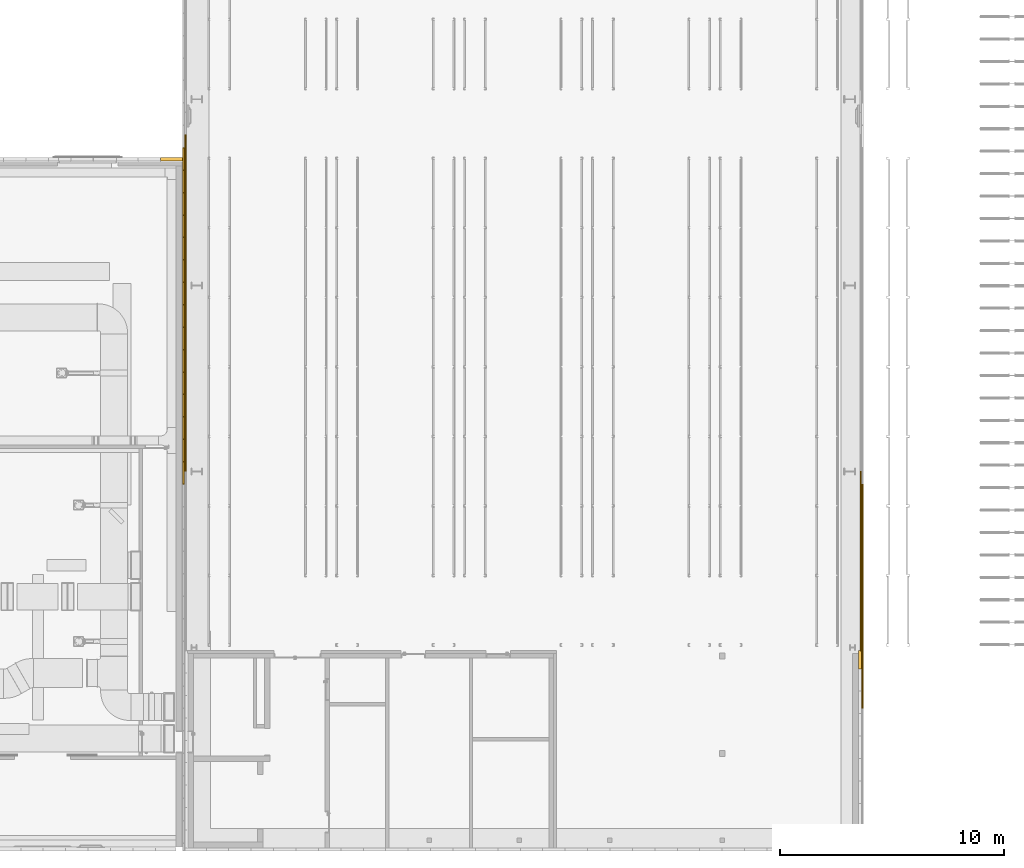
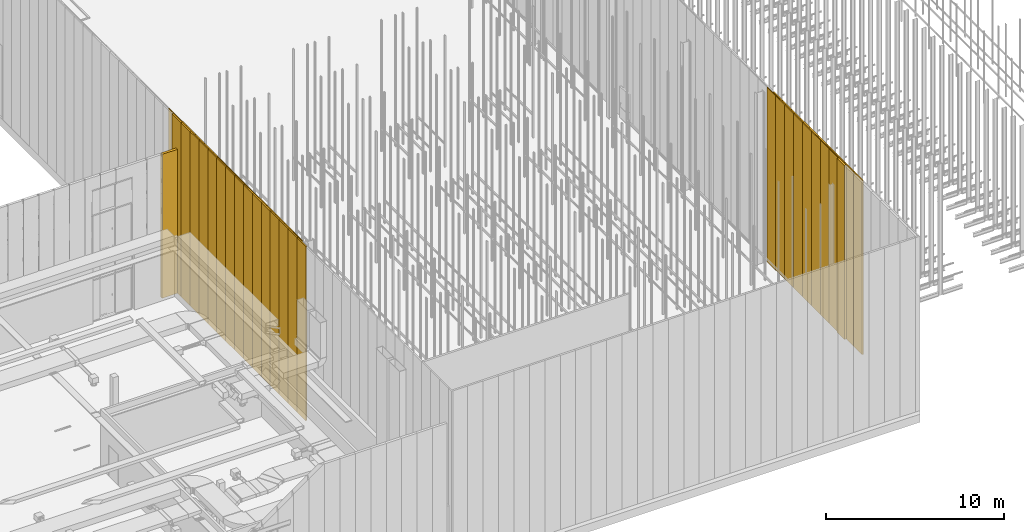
# One storey, part 240 of 302: 50 curtain walls, 6 elements without a shape of their own.
"""IFC2X3 building model written with IfcOpenShell, lengths in metres."""

from ifc_helpers import new_model, entity, si_unit, converted_unit, derived_unit, direction, frame, frame_2d, origin, place, context, subcontext, project, spatial, rectangle, extrude, material, layer, layer_set, layer_usage, type_object, element, aggregate, save


model = new_model("IFC2X3")

# Units and contexts
model_context = context("Model", 3, precision=1e-05, world=origin(), true_north=direction((6.12303176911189e-17, 1.0)))
body_context = subcontext(model_context, "Body", "Model", "MODEL_VIEW")
ifc_project = project(units=[si_unit("LENGTHUNIT", "METRE"), si_unit("AREAUNIT", "SQUARE_METRE"), si_unit("VOLUMEUNIT", "CUBIC_METRE"), converted_unit("PLANEANGLEUNIT", "DEGREE", entity("IfcRatioMeasure", 0.0174532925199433), si_unit("PLANEANGLEUNIT", "RADIAN"), dimensions=[0, 0, 0, 0, 0, 0, 0]), si_unit("MASSUNIT", "GRAM", prefix="KILO"), derived_unit("MASSDENSITYUNIT", [(si_unit("MASSUNIT", "GRAM", prefix="KILO"), 1), (si_unit("LENGTHUNIT", "METRE"), -3)]), derived_unit("MOMENTOFINERTIAUNIT", [(si_unit("LENGTHUNIT", "METRE"), 4)]), si_unit("TIMEUNIT", "SECOND"), si_unit("FREQUENCYUNIT", "HERTZ"), si_unit("THERMODYNAMICTEMPERATUREUNIT", "DEGREE_CELSIUS"), derived_unit("THERMALTRANSMITTANCEUNIT", [(si_unit("MASSUNIT", "GRAM", prefix="KILO"), 1), (si_unit("THERMODYNAMICTEMPERATUREUNIT", "KELVIN"), -1), (si_unit("TIMEUNIT", "SECOND"), -3)]), derived_unit("VOLUMETRICFLOWRATEUNIT", [(si_unit("LENGTHUNIT", "METRE"), 3), (si_unit("TIMEUNIT", "SECOND"), -1)]), si_unit("ELECTRICCURRENTUNIT", "AMPERE"), si_unit("ELECTRICVOLTAGEUNIT", "VOLT"), si_unit("POWERUNIT", "WATT"), si_unit("FORCEUNIT", "NEWTON", prefix="KILO"), si_unit("ILLUMINANCEUNIT", "LUX"), si_unit("LUMINOUSFLUXUNIT", "LUMEN"), si_unit("LUMINOUSINTENSITYUNIT", "CANDELA"), derived_unit("USERDEFINED", [(si_unit("MASSUNIT", "GRAM", prefix="KILO"), -1), (si_unit("LENGTHUNIT", "METRE"), -2), (si_unit("TIMEUNIT", "SECOND"), 3), (si_unit("LUMINOUSFLUXUNIT", "LUMEN"), 1)]), derived_unit("LINEARVELOCITYUNIT", [(si_unit("LENGTHUNIT", "METRE"), 1), (si_unit("TIMEUNIT", "SECOND"), -1)]), si_unit("PRESSUREUNIT", "PASCAL"), derived_unit("USERDEFINED", [(si_unit("LENGTHUNIT", "METRE"), -2), (si_unit("MASSUNIT", "GRAM", prefix="KILO"), 1), (si_unit("TIMEUNIT", "SECOND"), -2)]), derived_unit("LINEARFORCEUNIT", [(si_unit("MASSUNIT", "GRAM", prefix="KILO"), 1), (si_unit("LENGTHUNIT", "METRE"), 1), (si_unit("TIMEUNIT", "SECOND"), -2), (si_unit("LENGTHUNIT", "METRE"), -1)]), derived_unit("PLANARFORCEUNIT", [(si_unit("MASSUNIT", "GRAM", prefix="KILO"), 1), (si_unit("LENGTHUNIT", "METRE"), 1), (si_unit("TIMEUNIT", "SECOND"), -2), (si_unit("LENGTHUNIT", "METRE"), -2)])], contexts=[model_context])

# Site, building, storey
site_placement = place(None, origin())
site = spatial("IfcSite", under=ifc_project, at=site_placement, Name="Default", CompositionType="ELEMENT")
building_placement = place(site_placement, origin())
building = spatial("IfcBuilding", under=site, at=building_placement, CompositionType="ELEMENT")
storey_placement = place(building_placement, frame((0.0, 0.0, -1.3)))
storey = spatial("IfcBuildingStorey", under=building, at=storey_placement, Name="00_EG", CompositionType="ELEMENT", Elevation=-1.3)

# Curtain walls
curtain_wall_type_1 = type_object("IfcCurtainWallType", Name="Fassade:Curtain Wall 1", PredefinedType="NOTDEFINED")
curtain_wall_1_placement = place(storey_placement, frame((0.0, 0.0, 1.3)))
curtain_wall_1 = element("IfcCurtainWall", 1, at=curtain_wall_1_placement, inside=storey, type_object=curtain_wall_type_1, Name="Fassade:Curtain Wall 1", ObjectType="Fassade:Curtain Wall 1")
ifc_material_1 = material(Name="Prepainted_Steel-ArcelorMittal_Construction_HAIRULTRA-35-CORAL-4309-[RAL_3000]")
ifc_layer_1 = layer(ifc_material_1, 0.015)
ifc_material_2 = material(Name="ArcelorMittal-MineralWool")
ifc_layer_2 = layer(ifc_material_2, 0.13)
ifc_material_3 = material(Name="Prepainted_Steel-ArcelorMittal_Construction_INTÉRIEUR-12-WHITE-912")
ifc_layer_3 = layer(ifc_material_3, 0.015)
ifc_layer_set_1 = layer_set([ifc_layer_1, ifc_layer_2, ifc_layer_3], Name="Fassade:Sandwichpaneele 16cm")
ifc_layer_usage_1 = layer_usage(ifc_layer_set_1, "AXIS2", "POSITIVE", -0.08)
curtain_wall_type_2 = type_object("IfcCurtainWallType", Name="Basiswand:Sandwichpaneele d = 16cm aussen", PredefinedType="NOTDEFINED", material=ifc_layer_set_1)
curtain_wall_2_placement = place(storey_placement, frame((-207.610111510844, 45.658088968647, 1.27), z_axis=(0.0, 0.0, 1.0), x_axis=(-1.0, 0.0, 0.0)))
curtain_wall_2 = element("IfcCurtainWall", 2, at=curtain_wall_2_placement, type_object=curtain_wall_type_2, material=ifc_layer_usage_1, Name="Basiswand:Sandwichpaneele d = 16cm aussen", ObjectType="Basiswand:Sandwichpaneele d = 16cm aussen", context=body_context, shape_type="SweptSolid", body=[
    extrude(rectangle(XDim=0.997500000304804, YDim=0.159999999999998, at=frame_2d((0.498750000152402, 0.0), x_axis=(-1.0, 0.0))), origin(), (0.0, 0.0, 1.0), 9.8509),
])
aggregate(curtain_wall_1, [curtain_wall_2])

curtain_wall_type_3 = type_object("IfcCurtainWallType", PredefinedType="NOTDEFINED")
curtain_wall_3_placement = place(storey_placement, frame((0.0, 0.0, 1.3)))
curtain_wall_3 = element("IfcCurtainWall", 3, at=curtain_wall_3_placement, inside=storey, type_object=curtain_wall_type_3)
ifc_layer_4 = layer(ifc_material_1, 0.01)
ifc_layer_5 = layer(ifc_material_2, 0.06)
ifc_layer_6 = layer(ifc_material_1, 0.01)
ifc_layer_set_2 = layer_set([ifc_layer_4, ifc_layer_5, ifc_layer_6], Name="Fassade:Sandwichpaneele Gebäude B 80mm")
ifc_layer_usage_2 = layer_usage(ifc_layer_set_2, "AXIS2", "NEGATIVE", 0.04)
curtain_wall_type_4 = type_object("IfcCurtainWallType", Name="Basiswand:Sandwichpaneele d = 8cm aussen", PredefinedType="NOTDEFINED", material=ifc_layer_set_2)
curtain_wall_4_placement = place(storey_placement, frame((-207.570111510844, 46.1680889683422, 1.27), z_axis=(0.0, 0.0, 1.0), x_axis=(0.0, -1.0, 0.0)))
curtain_wall_4 = element("IfcCurtainWall", 4, at=curtain_wall_4_placement, type_object=curtain_wall_type_4, material=ifc_layer_usage_2, Name="Basiswand:Sandwichpaneele d = 8cm aussen", ObjectType="Basiswand:Sandwichpaneele d = 8cm aussen", context=body_context, shape_type="SweptSolid", body=[
    extrude(rectangle(XDim=0.999999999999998, YDim=0.0799999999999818, at=frame_2d((0.499999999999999, 0.0), x_axis=(-1.0, 0.0))), origin(), (0.0, 0.0, 1.0), 11.9314),
])
ifc_layer_usage_3 = layer_usage(ifc_layer_set_2, "AXIS2", "NEGATIVE", 0.04)
curtain_wall_5_placement = place(storey_placement, frame((-207.570111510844, 45.1680889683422, 1.27), z_axis=(0.0, 0.0, 1.0), x_axis=(0.0, -1.0, 0.0)))
curtain_wall_5 = element("IfcCurtainWall", 5, at=curtain_wall_5_placement, type_object=curtain_wall_type_4, material=ifc_layer_usage_3, Name="Basiswand:Sandwichpaneele d = 8cm aussen", ObjectType="Basiswand:Sandwichpaneele d = 8cm aussen", context=body_context, shape_type="SweptSolid", body=[
    extrude(rectangle(XDim=0.999999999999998, YDim=0.0799999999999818, at=frame_2d((0.499999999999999, 0.0), x_axis=(-1.0, 0.0))), origin(), (0.0, 0.0, 1.0), 11.9314),
])
ifc_layer_usage_4 = layer_usage(ifc_layer_set_2, "AXIS2", "NEGATIVE", 0.04)
curtain_wall_6_placement = place(storey_placement, frame((-207.570111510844, 44.1680889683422, 1.27), z_axis=(0.0, 0.0, 1.0), x_axis=(0.0, -1.0, 0.0)))
curtain_wall_6 = element("IfcCurtainWall", 6, at=curtain_wall_6_placement, type_object=curtain_wall_type_4, material=ifc_layer_usage_4, Name="Basiswand:Sandwichpaneele d = 8cm aussen", ObjectType="Basiswand:Sandwichpaneele d = 8cm aussen", context=body_context, shape_type="SweptSolid", body=[
    extrude(rectangle(XDim=0.999999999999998, YDim=0.0799999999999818, at=frame_2d((0.499999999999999, 0.0), x_axis=(-1.0, 0.0))), origin(), (0.0, 0.0, 1.0), 11.9314),
])
ifc_layer_usage_5 = layer_usage(ifc_layer_set_2, "AXIS2", "NEGATIVE", 0.04)
curtain_wall_7_placement = place(storey_placement, frame((-207.570111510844, 43.1680889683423, 1.27), z_axis=(0.0, 0.0, 1.0), x_axis=(0.0, -1.0, 0.0)))
curtain_wall_7 = element("IfcCurtainWall", 7, at=curtain_wall_7_placement, type_object=curtain_wall_type_4, material=ifc_layer_usage_5, Name="Basiswand:Sandwichpaneele d = 8cm aussen", ObjectType="Basiswand:Sandwichpaneele d = 8cm aussen", context=body_context, shape_type="SweptSolid", body=[
    extrude(rectangle(XDim=0.999999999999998, YDim=0.0799999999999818, at=frame_2d((0.499999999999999, 0.0), x_axis=(-1.0, 0.0))), origin(), (0.0, 0.0, 1.0), 11.9314),
])
ifc_layer_usage_6 = layer_usage(ifc_layer_set_2, "AXIS2", "NEGATIVE", 0.04)
curtain_wall_8_placement = place(storey_placement, frame((-207.570111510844, 42.1680889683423, 1.27), z_axis=(0.0, 0.0, 1.0), x_axis=(0.0, -1.0, 0.0)))
curtain_wall_8 = element("IfcCurtainWall", 8, at=curtain_wall_8_placement, type_object=curtain_wall_type_4, material=ifc_layer_usage_6, Name="Basiswand:Sandwichpaneele d = 8cm aussen", ObjectType="Basiswand:Sandwichpaneele d = 8cm aussen", context=body_context, shape_type="SweptSolid", body=[
    extrude(rectangle(XDim=1.00000000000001, YDim=0.0799999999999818, at=frame_2d((0.500000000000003, 0.0), x_axis=(-1.0, 0.0))), origin(), (0.0, 0.0, 1.0), 11.9314),
])
ifc_layer_usage_7 = layer_usage(ifc_layer_set_2, "AXIS2", "NEGATIVE", 0.04)
curtain_wall_9_placement = place(storey_placement, frame((-207.570111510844, 41.1680889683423, 1.27), z_axis=(0.0, 0.0, 1.0), x_axis=(0.0, -1.0, 0.0)))
curtain_wall_9 = element("IfcCurtainWall", 9, at=curtain_wall_9_placement, type_object=curtain_wall_type_4, material=ifc_layer_usage_7, Name="Basiswand:Sandwichpaneele d = 8cm aussen", ObjectType="Basiswand:Sandwichpaneele d = 8cm aussen", context=body_context, shape_type="SweptSolid", body=[
    extrude(rectangle(XDim=0.999999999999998, YDim=0.0799999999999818, at=frame_2d((0.499999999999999, 0.0), x_axis=(-1.0, 0.0))), origin(), (0.0, 0.0, 1.0), 11.9314),
])
ifc_layer_usage_8 = layer_usage(ifc_layer_set_2, "AXIS2", "NEGATIVE", 0.04)
curtain_wall_10_placement = place(storey_placement, frame((-207.570111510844, 40.1680889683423, 1.27), z_axis=(0.0, 0.0, 1.0), x_axis=(0.0, -1.0, 0.0)))
curtain_wall_10 = element("IfcCurtainWall", 10, at=curtain_wall_10_placement, type_object=curtain_wall_type_4, material=ifc_layer_usage_8, Name="Basiswand:Sandwichpaneele d = 8cm aussen", ObjectType="Basiswand:Sandwichpaneele d = 8cm aussen", context=body_context, shape_type="SweptSolid", body=[
    extrude(rectangle(XDim=0.999999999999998, YDim=0.0799999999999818, at=frame_2d((0.499999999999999, 0.0), x_axis=(-1.0, 0.0))), origin(), (0.0, 0.0, 1.0), 11.9314),
])
ifc_layer_usage_9 = layer_usage(ifc_layer_set_2, "AXIS2", "NEGATIVE", 0.04)
curtain_wall_11_placement = place(storey_placement, frame((-207.570111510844, 39.1680889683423, 1.27), z_axis=(0.0, 0.0, 1.0), x_axis=(0.0, -1.0, 0.0)))
curtain_wall_11 = element("IfcCurtainWall", 11, at=curtain_wall_11_placement, type_object=curtain_wall_type_4, material=ifc_layer_usage_9, Name="Basiswand:Sandwichpaneele d = 8cm aussen", ObjectType="Basiswand:Sandwichpaneele d = 8cm aussen", context=body_context, shape_type="SweptSolid", body=[
    extrude(rectangle(XDim=0.999999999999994, YDim=0.0799999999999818, at=frame_2d((0.499999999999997, 0.0), x_axis=(-1.0, 0.0))), origin(), (0.0, 0.0, 1.0), 11.9314),
])
ifc_layer_usage_10 = layer_usage(ifc_layer_set_2, "AXIS2", "NEGATIVE", 0.04)
curtain_wall_12_placement = place(storey_placement, frame((-207.570111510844, 38.1680889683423, 1.27), z_axis=(0.0, 0.0, 1.0), x_axis=(0.0, -1.0, 0.0)))
curtain_wall_12 = element("IfcCurtainWall", 12, at=curtain_wall_12_placement, type_object=curtain_wall_type_4, material=ifc_layer_usage_10, Name="Basiswand:Sandwichpaneele d = 8cm aussen", ObjectType="Basiswand:Sandwichpaneele d = 8cm aussen", context=body_context, shape_type="SweptSolid", body=[
    extrude(rectangle(XDim=1.0, YDim=0.0799999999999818, at=frame_2d((0.500000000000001, 0.0), x_axis=(-1.0, 0.0))), origin(), (0.0, 0.0, 1.0), 11.9314),
])
ifc_layer_usage_11 = layer_usage(ifc_layer_set_2, "AXIS2", "NEGATIVE", 0.04)
curtain_wall_13_placement = place(storey_placement, frame((-207.570111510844, 37.1680889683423, 1.27), z_axis=(0.0, 0.0, 1.0), x_axis=(0.0, -1.0, 0.0)))
curtain_wall_13 = element("IfcCurtainWall", 13, at=curtain_wall_13_placement, type_object=curtain_wall_type_4, material=ifc_layer_usage_11, Name="Basiswand:Sandwichpaneele d = 8cm aussen", ObjectType="Basiswand:Sandwichpaneele d = 8cm aussen", context=body_context, shape_type="SweptSolid", body=[
    extrude(rectangle(XDim=1.0, YDim=0.0799999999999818, at=frame_2d((0.500000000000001, 0.0), x_axis=(-1.0, 0.0))), origin(), (0.0, 0.0, 1.0), 11.9314),
])
ifc_layer_usage_12 = layer_usage(ifc_layer_set_2, "AXIS2", "NEGATIVE", 0.04)
curtain_wall_14_placement = place(storey_placement, frame((-207.570111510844, 36.1680889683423, 1.27), z_axis=(0.0, 0.0, 1.0), x_axis=(0.0, -1.0, 0.0)))
curtain_wall_14 = element("IfcCurtainWall", 14, at=curtain_wall_14_placement, type_object=curtain_wall_type_4, material=ifc_layer_usage_12, Name="Basiswand:Sandwichpaneele d = 8cm aussen", ObjectType="Basiswand:Sandwichpaneele d = 8cm aussen", context=body_context, shape_type="SweptSolid", body=[
    extrude(rectangle(XDim=0.999999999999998, YDim=0.0799999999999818, at=frame_2d((0.499999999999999, 0.0), x_axis=(-1.0, 0.0))), origin(), (0.0, 0.0, 1.0), 11.9314),
])
ifc_layer_usage_13 = layer_usage(ifc_layer_set_2, "AXIS2", "NEGATIVE", 0.04)
curtain_wall_15_placement = place(storey_placement, frame((-207.570111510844, 35.1680889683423, 1.27), z_axis=(0.0, 0.0, 1.0), x_axis=(0.0, -1.0, 0.0)))
curtain_wall_15 = element("IfcCurtainWall", 15, at=curtain_wall_15_placement, type_object=curtain_wall_type_4, material=ifc_layer_usage_13, Name="Basiswand:Sandwichpaneele d = 8cm aussen", ObjectType="Basiswand:Sandwichpaneele d = 8cm aussen", context=body_context, shape_type="SweptSolid", body=[
    extrude(rectangle(XDim=0.999999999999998, YDim=0.0799999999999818, at=frame_2d((0.499999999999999, 0.0), x_axis=(-1.0, 0.0))), origin(), (0.0, 0.0, 1.0), 11.9314),
])
ifc_layer_usage_14 = layer_usage(ifc_layer_set_2, "AXIS2", "NEGATIVE", 0.04)
curtain_wall_16_placement = place(storey_placement, frame((-207.570111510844, 34.1680889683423, 1.27), z_axis=(0.0, 0.0, 1.0), x_axis=(0.0, -1.0, 0.0)))
curtain_wall_16 = element("IfcCurtainWall", 16, at=curtain_wall_16_placement, type_object=curtain_wall_type_4, material=ifc_layer_usage_14, Name="Basiswand:Sandwichpaneele d = 8cm aussen", ObjectType="Basiswand:Sandwichpaneele d = 8cm aussen", context=body_context, shape_type="SweptSolid", body=[
    extrude(rectangle(XDim=0.999999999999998, YDim=0.0799999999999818, at=frame_2d((0.499999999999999, 0.0), x_axis=(-1.0, 0.0))), origin(), (0.0, 0.0, 1.0), 11.9314),
])
ifc_layer_usage_15 = layer_usage(ifc_layer_set_2, "AXIS2", "NEGATIVE", 0.04)
curtain_wall_17_placement = place(storey_placement, frame((-207.570111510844, 33.1680889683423, 1.27), z_axis=(0.0, 0.0, 1.0), x_axis=(0.0, -1.0, 0.0)))
curtain_wall_17 = element("IfcCurtainWall", 17, at=curtain_wall_17_placement, type_object=curtain_wall_type_4, material=ifc_layer_usage_15, Name="Basiswand:Sandwichpaneele d = 8cm aussen", ObjectType="Basiswand:Sandwichpaneele d = 8cm aussen", context=body_context, shape_type="SweptSolid", body=[
    extrude(rectangle(XDim=0.999999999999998, YDim=0.0799999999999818, at=frame_2d((0.499999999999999, 0.0), x_axis=(-1.0, 0.0))), origin(), (0.0, 0.0, 1.0), 11.9314),
])
ifc_layer_usage_16 = layer_usage(ifc_layer_set_2, "AXIS2", "NEGATIVE", 0.04)
curtain_wall_18_placement = place(storey_placement, frame((-207.570111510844, 32.1680889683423, 1.27), z_axis=(0.0, 0.0, 1.0), x_axis=(0.0, -1.0, 0.0)))
curtain_wall_18 = element("IfcCurtainWall", 18, at=curtain_wall_18_placement, type_object=curtain_wall_type_4, material=ifc_layer_usage_16, Name="Basiswand:Sandwichpaneele d = 8cm aussen", ObjectType="Basiswand:Sandwichpaneele d = 8cm aussen", context=body_context, shape_type="SweptSolid", body=[
    extrude(rectangle(XDim=1.00000000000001, YDim=0.0799999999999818, at=frame_2d((0.500000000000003, 0.0), x_axis=(-1.0, 0.0))), origin(), (0.0, 0.0, 1.0), 11.9314),
])
aggregate(curtain_wall_3, [curtain_wall_4, curtain_wall_5, curtain_wall_6, curtain_wall_7, curtain_wall_8, curtain_wall_9, curtain_wall_10, curtain_wall_11, curtain_wall_12, curtain_wall_13, curtain_wall_14, curtain_wall_15, curtain_wall_16, curtain_wall_17, curtain_wall_18])

curtain_wall_19_placement = place(storey_placement, frame((0.0, 0.0, 1.3)))
curtain_wall_19 = element("IfcCurtainWall", 19, at=curtain_wall_19_placement, inside=storey, type_object=curtain_wall_type_3)
ifc_layer_usage_17 = layer_usage(ifc_layer_set_2, "AXIS2", "POSITIVE", -0.04)
curtain_wall_20_placement = place(storey_placement, frame((-177.310111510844, 31.1680889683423, 1.27), z_axis=(0.0, 0.0, 1.0), x_axis=(0.0, -1.0, 0.0)))
curtain_wall_20 = element("IfcCurtainWall", 20, at=curtain_wall_20_placement, type_object=curtain_wall_type_4, material=ifc_layer_usage_17, Name="Basiswand:Sandwichpaneele d = 8cm aussen", ObjectType="Basiswand:Sandwichpaneele d = 8cm aussen", context=body_context, shape_type="SweptSolid", body=[
    extrude(rectangle(XDim=0.999999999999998, YDim=0.0799999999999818, at=frame_2d((0.499999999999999, 0.0), x_axis=(-1.0, 0.0))), origin(), (0.0, 0.0, 1.0), 11.9314),
])
ifc_layer_usage_18 = layer_usage(ifc_layer_set_2, "AXIS2", "POSITIVE", -0.04)
curtain_wall_21_placement = place(storey_placement, frame((-177.310111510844, 30.1680889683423, 1.27), z_axis=(0.0, 0.0, 1.0), x_axis=(0.0, -1.0, 0.0)))
curtain_wall_21 = element("IfcCurtainWall", 21, at=curtain_wall_21_placement, type_object=curtain_wall_type_4, material=ifc_layer_usage_18, Name="Basiswand:Sandwichpaneele d = 8cm aussen", ObjectType="Basiswand:Sandwichpaneele d = 8cm aussen", context=body_context, shape_type="SweptSolid", body=[
    extrude(rectangle(XDim=0.999999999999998, YDim=0.0799999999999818, at=frame_2d((0.499999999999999, 0.0), x_axis=(-1.0, 0.0))), origin(), (0.0, 0.0, 1.0), 11.9314),
])
ifc_layer_usage_19 = layer_usage(ifc_layer_set_2, "AXIS2", "POSITIVE", -0.04)
curtain_wall_22_placement = place(storey_placement, frame((-177.310111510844, 29.1680889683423, 1.27), z_axis=(0.0, 0.0, 1.0), x_axis=(0.0, -1.0, 0.0)))
curtain_wall_22 = element("IfcCurtainWall", 22, at=curtain_wall_22_placement, type_object=curtain_wall_type_4, material=ifc_layer_usage_19, Name="Basiswand:Sandwichpaneele d = 8cm aussen", ObjectType="Basiswand:Sandwichpaneele d = 8cm aussen", context=body_context, shape_type="SweptSolid", body=[
    extrude(rectangle(XDim=0.999999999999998, YDim=0.0799999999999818, at=frame_2d((0.499999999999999, 0.0), x_axis=(-1.0, 0.0))), origin(), (0.0, 0.0, 1.0), 11.9314),
])
ifc_layer_usage_20 = layer_usage(ifc_layer_set_2, "AXIS2", "POSITIVE", -0.04)
curtain_wall_23_placement = place(storey_placement, frame((-177.310111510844, 28.1680889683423, 1.27), z_axis=(0.0, 0.0, 1.0), x_axis=(0.0, -1.0, 0.0)))
curtain_wall_23 = element("IfcCurtainWall", 23, at=curtain_wall_23_placement, type_object=curtain_wall_type_4, material=ifc_layer_usage_20, Name="Basiswand:Sandwichpaneele d = 8cm aussen", ObjectType="Basiswand:Sandwichpaneele d = 8cm aussen", context=body_context, shape_type="SweptSolid", body=[
    extrude(rectangle(XDim=0.999999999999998, YDim=0.0799999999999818, at=frame_2d((0.499999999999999, 0.0), x_axis=(-1.0, 0.0))), origin(), (0.0, 0.0, 1.0), 11.9314),
])
ifc_layer_usage_21 = layer_usage(ifc_layer_set_2, "AXIS2", "POSITIVE", -0.04)
curtain_wall_24_placement = place(storey_placement, frame((-177.310111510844, 27.1680889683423, 1.27), z_axis=(0.0, 0.0, 1.0), x_axis=(0.0, -1.0, 0.0)))
curtain_wall_24 = element("IfcCurtainWall", 24, at=curtain_wall_24_placement, type_object=curtain_wall_type_4, material=ifc_layer_usage_21, Name="Basiswand:Sandwichpaneele d = 8cm aussen", ObjectType="Basiswand:Sandwichpaneele d = 8cm aussen", context=body_context, shape_type="SweptSolid", body=[
    extrude(rectangle(XDim=0.999999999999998, YDim=0.0799999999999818, at=frame_2d((0.499999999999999, 0.0), x_axis=(-1.0, 0.0))), origin(), (0.0, 0.0, 1.0), 11.9314),
])
ifc_layer_usage_22 = layer_usage(ifc_layer_set_2, "AXIS2", "POSITIVE", -0.04)
curtain_wall_25_placement = place(storey_placement, frame((-177.310111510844, 26.1680889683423, 1.27), z_axis=(0.0, 0.0, 1.0), x_axis=(0.0, -1.0, 0.0)))
curtain_wall_25 = element("IfcCurtainWall", 25, at=curtain_wall_25_placement, type_object=curtain_wall_type_4, material=ifc_layer_usage_22, Name="Basiswand:Sandwichpaneele d = 8cm aussen", ObjectType="Basiswand:Sandwichpaneele d = 8cm aussen", context=body_context, shape_type="SweptSolid", body=[
    extrude(rectangle(XDim=1.00000000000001, YDim=0.0799999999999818, at=frame_2d((0.500000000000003, 0.0), x_axis=(-1.0, 0.0))), origin(), (0.0, 0.0, 1.0), 11.9314),
])
ifc_layer_usage_23 = layer_usage(ifc_layer_set_2, "AXIS2", "POSITIVE", -0.04)
curtain_wall_26_placement = place(storey_placement, frame((-177.310111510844, 25.1680889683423, 1.27), z_axis=(0.0, 0.0, 1.0), x_axis=(0.0, -1.0, 0.0)))
curtain_wall_26 = element("IfcCurtainWall", 26, at=curtain_wall_26_placement, type_object=curtain_wall_type_4, material=ifc_layer_usage_23, Name="Basiswand:Sandwichpaneele d = 8cm aussen", ObjectType="Basiswand:Sandwichpaneele d = 8cm aussen", context=body_context, shape_type="SweptSolid", body=[
    extrude(rectangle(XDim=0.999999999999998, YDim=0.0799999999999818, at=frame_2d((0.499999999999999, 0.0), x_axis=(-1.0, 0.0))), origin(), (0.0, 0.0, 1.0), 11.9314),
])
ifc_layer_usage_24 = layer_usage(ifc_layer_set_2, "AXIS2", "POSITIVE", -0.04)
curtain_wall_27_placement = place(storey_placement, frame((-177.310111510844, 24.1680889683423, 1.27), z_axis=(0.0, 0.0, 1.0), x_axis=(0.0, -1.0, 0.0)))
curtain_wall_27 = element("IfcCurtainWall", 27, at=curtain_wall_27_placement, type_object=curtain_wall_type_4, material=ifc_layer_usage_24, Name="Basiswand:Sandwichpaneele d = 8cm aussen", ObjectType="Basiswand:Sandwichpaneele d = 8cm aussen", context=body_context, shape_type="SweptSolid", body=[
    extrude(rectangle(XDim=1.00000000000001, YDim=0.0799999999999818, at=frame_2d((0.500000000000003, 0.0), x_axis=(-1.0, 0.0))), origin(), (0.0, 0.0, 1.0), 11.9314),
])
ifc_layer_usage_25 = layer_usage(ifc_layer_set_2, "AXIS2", "POSITIVE", -0.04)
curtain_wall_28_placement = place(storey_placement, frame((-177.310111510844, 23.1680889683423, 1.27), z_axis=(0.0, 0.0, 1.0), x_axis=(0.0, -1.0, 0.0)))
curtain_wall_28 = element("IfcCurtainWall", 28, at=curtain_wall_28_placement, type_object=curtain_wall_type_4, material=ifc_layer_usage_25, Name="Basiswand:Sandwichpaneele d = 8cm aussen", ObjectType="Basiswand:Sandwichpaneele d = 8cm aussen", context=body_context, shape_type="SweptSolid", body=[
    extrude(rectangle(XDim=0.999999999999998, YDim=0.0799999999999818, at=frame_2d((0.499999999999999, 0.0), x_axis=(-1.0, 0.0))), origin(), (0.0, 0.0, 1.0), 11.9314),
])
ifc_layer_usage_26 = layer_usage(ifc_layer_set_2, "AXIS2", "POSITIVE", -0.04)
curtain_wall_29_placement = place(storey_placement, frame((-177.310111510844, 22.1680889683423, 1.27), z_axis=(0.0, 0.0, 1.0), x_axis=(0.0, -1.0, 0.0)))
curtain_wall_29 = element("IfcCurtainWall", 29, at=curtain_wall_29_placement, type_object=curtain_wall_type_4, material=ifc_layer_usage_26, Name="Basiswand:Sandwichpaneele d = 8cm aussen", ObjectType="Basiswand:Sandwichpaneele d = 8cm aussen", context=body_context, shape_type="SweptSolid", body=[
    extrude(rectangle(XDim=0.999999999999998, YDim=0.0799999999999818, at=frame_2d((0.499999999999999, 0.0), x_axis=(-1.0, 0.0))), origin(), (0.0, 0.0, 1.0), 11.9314),
])
aggregate(curtain_wall_19, [curtain_wall_20, curtain_wall_21, curtain_wall_22, curtain_wall_23, curtain_wall_24, curtain_wall_25, curtain_wall_26, curtain_wall_27, curtain_wall_28, curtain_wall_29])

curtain_wall_type_5 = type_object("IfcCurtainWallType", PredefinedType="NOTDEFINED")
curtain_wall_30_placement = place(storey_placement, frame((0.0, 0.0, 1.3)))
curtain_wall_30 = element("IfcCurtainWall", 30, at=curtain_wall_30_placement, inside=storey, type_object=curtain_wall_type_5)
ifc_layer_7 = layer(ifc_material_1, 0.015)
ifc_layer_8 = layer(ifc_material_2, 0.09)
ifc_layer_9 = layer(ifc_material_1, 0.015)
ifc_layer_set_3 = layer_set([ifc_layer_7, ifc_layer_8, ifc_layer_9], Name="Fassade:Sandwichpaneele Gebäude B 120mm")
ifc_layer_usage_27 = layer_usage(ifc_layer_set_3, "AXIS2", "NEGATIVE", 0.06)
curtain_wall_type_6 = type_object("IfcCurtainWallType", Name="Basiswand:Sandwichpaneele d = 12cm aussen", PredefinedType="NOTDEFINED", material=ifc_layer_set_3)
curtain_wall_31_placement = place(storey_placement, frame((-177.420111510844, 22.9380889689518, 1.27), z_axis=(0.0, 0.0, 1.0), x_axis=(0.0, 1.0, 0.0)))
curtain_wall_31 = element("IfcCurtainWall", 31, at=curtain_wall_31_placement, type_object=curtain_wall_type_6, material=ifc_layer_usage_27, Name="Basiswand:Sandwichpaneele d = 12cm aussen", ObjectType="Basiswand:Sandwichpaneele d = 12cm aussen", context=body_context, shape_type="SweptSolid", body=[
    extrude(rectangle(XDim=0.809999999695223, YDim=0.119999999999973, at=frame_2d((0.404999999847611, 0.0), x_axis=(-1.0, 0.0))), origin(), (0.0, 0.0, 1.0), 11.9314),
])
aggregate(curtain_wall_30, [curtain_wall_31])

curtain_wall_type_7 = type_object("IfcCurtainWallType", PredefinedType="NOTDEFINED")
curtain_wall_32_placement = place(storey_placement, frame((0.0, 0.0, 1.3)))
curtain_wall_32 = element("IfcCurtainWall", 32, at=curtain_wall_32_placement, inside=storey, type_object=curtain_wall_type_7)
ifc_layer_10 = layer(ifc_material_1, 0.01)
ifc_layer_11 = layer(ifc_material_2, 0.04)
ifc_layer_12 = layer(ifc_material_1, 0.01)
ifc_layer_set_4 = layer_set([ifc_layer_10, ifc_layer_11, ifc_layer_12], Name="Fassade:Sandwichpaneele Gebäude B 60mm")
ifc_layer_usage_28 = layer_usage(ifc_layer_set_4, "AXIS2", "NEGATIVE", 0.03)
curtain_wall_type_8 = type_object("IfcCurtainWallType", Name="Basiswand:Sandwichpaneele d = 6cm aussen", PredefinedType="NOTDEFINED", material=ifc_layer_set_4)
curtain_wall_33_placement = place(storey_placement, frame((-207.490111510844, 31.7480889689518, 1.27), z_axis=(0.0, 0.0, 1.0), x_axis=(0.0, 1.0, 0.0)))
curtain_wall_33 = element("IfcCurtainWall", 33, at=curtain_wall_33_placement, type_object=curtain_wall_type_8, material=ifc_layer_usage_28, Name="Basiswand:Sandwichpaneele d = 6cm aussen", ObjectType="Basiswand:Sandwichpaneele d = 6cm aussen", context=body_context, shape_type="SweptSolid", body=[
    extrude(rectangle(XDim=0.999999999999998, YDim=0.0599999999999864, at=frame_2d((0.499999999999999, 0.0), x_axis=(-1.0, 0.0))), origin(), (0.0, 0.0, 1.0), 11.9314),
])
ifc_layer_usage_29 = layer_usage(ifc_layer_set_4, "AXIS2", "NEGATIVE", 0.03)
curtain_wall_34_placement = place(storey_placement, frame((-207.490111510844, 32.7480889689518, 1.27), z_axis=(0.0, 0.0, 1.0), x_axis=(0.0, 1.0, 0.0)))
curtain_wall_34 = element("IfcCurtainWall", 34, at=curtain_wall_34_placement, type_object=curtain_wall_type_8, material=ifc_layer_usage_29, Name="Basiswand:Sandwichpaneele d = 6cm aussen", ObjectType="Basiswand:Sandwichpaneele d = 6cm aussen", context=body_context, shape_type="SweptSolid", body=[
    extrude(rectangle(XDim=1.0, YDim=0.0599999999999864, at=frame_2d((0.500000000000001, 0.0), x_axis=(-1.0, 0.0))), origin(), (0.0, 0.0, 1.0), 11.9314),
])
ifc_layer_usage_30 = layer_usage(ifc_layer_set_4, "AXIS2", "NEGATIVE", 0.03)
curtain_wall_35_placement = place(storey_placement, frame((-207.490111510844, 33.7480889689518, 1.27), z_axis=(0.0, 0.0, 1.0), x_axis=(0.0, 1.0, 0.0)))
curtain_wall_35 = element("IfcCurtainWall", 35, at=curtain_wall_35_placement, type_object=curtain_wall_type_8, material=ifc_layer_usage_30, Name="Basiswand:Sandwichpaneele d = 6cm aussen", ObjectType="Basiswand:Sandwichpaneele d = 6cm aussen", context=body_context, shape_type="SweptSolid", body=[
    extrude(rectangle(XDim=0.999999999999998, YDim=0.0599999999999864, at=frame_2d((0.499999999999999, 0.0), x_axis=(-1.0, 0.0))), origin(), (0.0, 0.0, 1.0), 11.9314),
])
ifc_layer_usage_31 = layer_usage(ifc_layer_set_4, "AXIS2", "NEGATIVE", 0.03)
curtain_wall_36_placement = place(storey_placement, frame((-207.490111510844, 34.7480889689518, 1.27), z_axis=(0.0, 0.0, 1.0), x_axis=(0.0, 1.0, 0.0)))
curtain_wall_36 = element("IfcCurtainWall", 36, at=curtain_wall_36_placement, type_object=curtain_wall_type_8, material=ifc_layer_usage_31, Name="Basiswand:Sandwichpaneele d = 6cm aussen", ObjectType="Basiswand:Sandwichpaneele d = 6cm aussen", context=body_context, shape_type="SweptSolid", body=[
    extrude(rectangle(XDim=0.999999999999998, YDim=0.0599999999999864, at=frame_2d((0.499999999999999, 0.0), x_axis=(-1.0, 0.0))), origin(), (0.0, 0.0, 1.0), 11.9314),
])
ifc_layer_usage_32 = layer_usage(ifc_layer_set_4, "AXIS2", "NEGATIVE", 0.03)
curtain_wall_37_placement = place(storey_placement, frame((-207.490111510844, 35.7480889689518, 1.27), z_axis=(0.0, 0.0, 1.0), x_axis=(0.0, 1.0, 0.0)))
curtain_wall_37 = element("IfcCurtainWall", 37, at=curtain_wall_37_placement, type_object=curtain_wall_type_8, material=ifc_layer_usage_32, Name="Basiswand:Sandwichpaneele d = 6cm aussen", ObjectType="Basiswand:Sandwichpaneele d = 6cm aussen", context=body_context, shape_type="SweptSolid", body=[
    extrude(rectangle(XDim=1.0, YDim=0.0599999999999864, at=frame_2d((0.500000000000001, 0.0), x_axis=(-1.0, 0.0))), origin(), (0.0, 0.0, 1.0), 11.9314),
])
ifc_layer_usage_33 = layer_usage(ifc_layer_set_4, "AXIS2", "NEGATIVE", 0.03)
curtain_wall_38_placement = place(storey_placement, frame((-207.490111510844, 36.7480889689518, 1.27), z_axis=(0.0, 0.0, 1.0), x_axis=(0.0, 1.0, 0.0)))
curtain_wall_38 = element("IfcCurtainWall", 38, at=curtain_wall_38_placement, type_object=curtain_wall_type_8, material=ifc_layer_usage_33, Name="Basiswand:Sandwichpaneele d = 6cm aussen", ObjectType="Basiswand:Sandwichpaneele d = 6cm aussen", context=body_context, shape_type="SweptSolid", body=[
    extrude(rectangle(XDim=1.0, YDim=0.0599999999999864, at=frame_2d((0.500000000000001, 0.0), x_axis=(-1.0, 0.0))), origin(), (0.0, 0.0, 1.0), 11.9314),
])
ifc_layer_usage_34 = layer_usage(ifc_layer_set_4, "AXIS2", "NEGATIVE", 0.03)
curtain_wall_39_placement = place(storey_placement, frame((-207.490111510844, 37.7480889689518, 1.27), z_axis=(0.0, 0.0, 1.0), x_axis=(0.0, 1.0, 0.0)))
curtain_wall_39 = element("IfcCurtainWall", 39, at=curtain_wall_39_placement, type_object=curtain_wall_type_8, material=ifc_layer_usage_34, Name="Basiswand:Sandwichpaneele d = 6cm aussen", ObjectType="Basiswand:Sandwichpaneele d = 6cm aussen", context=body_context, shape_type="SweptSolid", body=[
    extrude(rectangle(XDim=0.999999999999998, YDim=0.0599999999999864, at=frame_2d((0.499999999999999, 0.0), x_axis=(-1.0, 0.0))), origin(), (0.0, 0.0, 1.0), 11.9314),
])
ifc_layer_usage_35 = layer_usage(ifc_layer_set_4, "AXIS2", "NEGATIVE", 0.03)
curtain_wall_40_placement = place(storey_placement, frame((-207.490111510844, 38.7480889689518, 1.27), z_axis=(0.0, 0.0, 1.0), x_axis=(0.0, 1.0, 0.0)))
curtain_wall_40 = element("IfcCurtainWall", 40, at=curtain_wall_40_placement, type_object=curtain_wall_type_8, material=ifc_layer_usage_35, Name="Basiswand:Sandwichpaneele d = 6cm aussen", ObjectType="Basiswand:Sandwichpaneele d = 6cm aussen", context=body_context, shape_type="SweptSolid", body=[
    extrude(rectangle(XDim=0.999999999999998, YDim=0.0599999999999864, at=frame_2d((0.499999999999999, 0.0), x_axis=(-1.0, 0.0))), origin(), (0.0, 0.0, 1.0), 11.9314),
])
ifc_layer_usage_36 = layer_usage(ifc_layer_set_4, "AXIS2", "NEGATIVE", 0.03)
curtain_wall_41_placement = place(storey_placement, frame((-207.490111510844, 39.7480889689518, 1.27), z_axis=(0.0, 0.0, 1.0), x_axis=(0.0, 1.0, 0.0)))
curtain_wall_41 = element("IfcCurtainWall", 41, at=curtain_wall_41_placement, type_object=curtain_wall_type_8, material=ifc_layer_usage_36, Name="Basiswand:Sandwichpaneele d = 6cm aussen", ObjectType="Basiswand:Sandwichpaneele d = 6cm aussen", context=body_context, shape_type="SweptSolid", body=[
    extrude(rectangle(XDim=1.00000000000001, YDim=0.0599999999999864, at=frame_2d((0.500000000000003, 0.0), x_axis=(-1.0, 0.0))), origin(), (0.0, 0.0, 1.0), 11.9314),
])
ifc_layer_usage_37 = layer_usage(ifc_layer_set_4, "AXIS2", "NEGATIVE", 0.03)
curtain_wall_42_placement = place(storey_placement, frame((-207.490111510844, 40.7480889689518, 1.27), z_axis=(0.0, 0.0, 1.0), x_axis=(0.0, 1.0, 0.0)))
curtain_wall_42 = element("IfcCurtainWall", 42, at=curtain_wall_42_placement, type_object=curtain_wall_type_8, material=ifc_layer_usage_37, Name="Basiswand:Sandwichpaneele d = 6cm aussen", ObjectType="Basiswand:Sandwichpaneele d = 6cm aussen", context=body_context, shape_type="SweptSolid", body=[
    extrude(rectangle(XDim=0.999999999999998, YDim=0.0599999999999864, at=frame_2d((0.499999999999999, 0.0), x_axis=(-1.0, 0.0))), origin(), (0.0, 0.0, 1.0), 11.9314),
])
ifc_layer_usage_38 = layer_usage(ifc_layer_set_4, "AXIS2", "NEGATIVE", 0.03)
curtain_wall_43_placement = place(storey_placement, frame((-207.490111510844, 41.7480889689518, 1.27), z_axis=(0.0, 0.0, 1.0), x_axis=(0.0, 1.0, 0.0)))
curtain_wall_43 = element("IfcCurtainWall", 43, at=curtain_wall_43_placement, type_object=curtain_wall_type_8, material=ifc_layer_usage_38, Name="Basiswand:Sandwichpaneele d = 6cm aussen", ObjectType="Basiswand:Sandwichpaneele d = 6cm aussen", context=body_context, shape_type="SweptSolid", body=[
    extrude(rectangle(XDim=0.999999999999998, YDim=0.0599999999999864, at=frame_2d((0.499999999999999, 0.0), x_axis=(-1.0, 0.0))), origin(), (0.0, 0.0, 1.0), 11.9314),
])
ifc_layer_usage_39 = layer_usage(ifc_layer_set_4, "AXIS2", "NEGATIVE", 0.03)
curtain_wall_44_placement = place(storey_placement, frame((-207.490111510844, 42.7480889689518, 1.27), z_axis=(0.0, 0.0, 1.0), x_axis=(0.0, 1.0, 0.0)))
curtain_wall_44 = element("IfcCurtainWall", 44, at=curtain_wall_44_placement, type_object=curtain_wall_type_8, material=ifc_layer_usage_39, Name="Basiswand:Sandwichpaneele d = 6cm aussen", ObjectType="Basiswand:Sandwichpaneele d = 6cm aussen", context=body_context, shape_type="SweptSolid", body=[
    extrude(rectangle(XDim=0.999999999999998, YDim=0.0599999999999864, at=frame_2d((0.499999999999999, 0.0), x_axis=(-1.0, 0.0))), origin(), (0.0, 0.0, 1.0), 11.9314),
])
ifc_layer_usage_40 = layer_usage(ifc_layer_set_4, "AXIS2", "NEGATIVE", 0.03)
curtain_wall_45_placement = place(storey_placement, frame((-207.490111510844, 43.7480889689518, 1.27), z_axis=(0.0, 0.0, 1.0), x_axis=(0.0, 1.0, 0.0)))
curtain_wall_45 = element("IfcCurtainWall", 45, at=curtain_wall_45_placement, type_object=curtain_wall_type_8, material=ifc_layer_usage_40, Name="Basiswand:Sandwichpaneele d = 6cm aussen", ObjectType="Basiswand:Sandwichpaneele d = 6cm aussen", context=body_context, shape_type="SweptSolid", body=[
    extrude(rectangle(XDim=0.999999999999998, YDim=0.0599999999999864, at=frame_2d((0.499999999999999, 0.0), x_axis=(-1.0, 0.0))), origin(), (0.0, 0.0, 1.0), 11.9314),
])
ifc_layer_usage_41 = layer_usage(ifc_layer_set_4, "AXIS2", "NEGATIVE", 0.03)
curtain_wall_46_placement = place(storey_placement, frame((-207.490111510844, 44.7480889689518, 1.27), z_axis=(0.0, 0.0, 1.0), x_axis=(0.0, 1.0, 0.0)))
curtain_wall_46 = element("IfcCurtainWall", 46, at=curtain_wall_46_placement, type_object=curtain_wall_type_8, material=ifc_layer_usage_41, Name="Basiswand:Sandwichpaneele d = 6cm aussen", ObjectType="Basiswand:Sandwichpaneele d = 6cm aussen", context=body_context, shape_type="SweptSolid", body=[
    extrude(rectangle(XDim=0.999999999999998, YDim=0.0599999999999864, at=frame_2d((0.499999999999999, 0.0), x_axis=(-1.0, 0.0))), origin(), (0.0, 0.0, 1.0), 11.9314),
])
ifc_layer_usage_42 = layer_usage(ifc_layer_set_4, "AXIS2", "NEGATIVE", 0.03)
curtain_wall_47_placement = place(storey_placement, frame((-207.490111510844, 45.7480889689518, 1.27), z_axis=(0.0, 0.0, 1.0), x_axis=(0.0, 1.0, 0.0)))
curtain_wall_47 = element("IfcCurtainWall", 47, at=curtain_wall_47_placement, type_object=curtain_wall_type_8, material=ifc_layer_usage_42, Name="Basiswand:Sandwichpaneele d = 6cm aussen", ObjectType="Basiswand:Sandwichpaneele d = 6cm aussen", context=body_context, shape_type="SweptSolid", body=[
    extrude(rectangle(XDim=0.999999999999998, YDim=0.0599999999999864, at=frame_2d((0.499999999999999, 0.0), x_axis=(-1.0, 0.0))), origin(), (0.0, 0.0, 1.0), 11.9314),
])
aggregate(curtain_wall_32, [curtain_wall_33, curtain_wall_34, curtain_wall_35, curtain_wall_36, curtain_wall_37, curtain_wall_38, curtain_wall_39, curtain_wall_40, curtain_wall_41, curtain_wall_42, curtain_wall_43, curtain_wall_44, curtain_wall_45, curtain_wall_46, curtain_wall_47])

curtain_wall_48_placement = place(storey_placement, frame((0.0, 0.0, 1.3)))
curtain_wall_48 = element("IfcCurtainWall", 48, at=curtain_wall_48_placement, inside=storey, type_object=curtain_wall_type_7)
ifc_layer_usage_43 = layer_usage(ifc_layer_set_4, "AXIS2", "POSITIVE", -0.03)
curtain_wall_49_placement = place(storey_placement, frame((-177.390111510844, 23.748088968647, 1.27), z_axis=(0.0, 0.0, 1.0), x_axis=(0.0, 1.0, 0.0)))
curtain_wall_49 = element("IfcCurtainWall", 49, at=curtain_wall_49_placement, type_object=curtain_wall_type_8, material=ifc_layer_usage_43, Name="Basiswand:Sandwichpaneele d = 6cm aussen", ObjectType="Basiswand:Sandwichpaneele d = 6cm aussen", context=body_context, shape_type="SweptSolid", body=[
    extrude(rectangle(XDim=1.0000000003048, YDim=0.0599999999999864, at=frame_2d((0.5000000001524, 0.0), x_axis=(-1.0, 0.0))), origin(), (0.0, 0.0, 1.0), 11.9314),
])
ifc_layer_usage_44 = layer_usage(ifc_layer_set_4, "AXIS2", "POSITIVE", -0.03)
curtain_wall_50_placement = place(storey_placement, frame((-177.390111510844, 24.7480889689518, 1.27), z_axis=(0.0, 0.0, 1.0), x_axis=(0.0, 1.0, 0.0)))
curtain_wall_50 = element("IfcCurtainWall", 50, at=curtain_wall_50_placement, type_object=curtain_wall_type_8, material=ifc_layer_usage_44, Name="Basiswand:Sandwichpaneele d = 6cm aussen", ObjectType="Basiswand:Sandwichpaneele d = 6cm aussen", context=body_context, shape_type="SweptSolid", body=[
    extrude(rectangle(XDim=1.0, YDim=0.0599999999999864, at=frame_2d((0.500000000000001, 0.0), x_axis=(-1.0, 0.0))), origin(), (0.0, 0.0, 1.0), 11.9314),
])
ifc_layer_usage_45 = layer_usage(ifc_layer_set_4, "AXIS2", "POSITIVE", -0.03)
curtain_wall_51_placement = place(storey_placement, frame((-177.390111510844, 25.7480889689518, 1.27), z_axis=(0.0, 0.0, 1.0), x_axis=(0.0, 1.0, 0.0)))
curtain_wall_51 = element("IfcCurtainWall", 51, at=curtain_wall_51_placement, type_object=curtain_wall_type_8, material=ifc_layer_usage_45, Name="Basiswand:Sandwichpaneele d = 6cm aussen", ObjectType="Basiswand:Sandwichpaneele d = 6cm aussen", context=body_context, shape_type="SweptSolid", body=[
    extrude(rectangle(XDim=0.999999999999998, YDim=0.0599999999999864, at=frame_2d((0.499999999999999, 0.0), x_axis=(-1.0, 0.0))), origin(), (0.0, 0.0, 1.0), 11.9314),
])
ifc_layer_usage_46 = layer_usage(ifc_layer_set_4, "AXIS2", "POSITIVE", -0.03)
curtain_wall_52_placement = place(storey_placement, frame((-177.390111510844, 26.7480889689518, 1.27), z_axis=(0.0, 0.0, 1.0), x_axis=(0.0, 1.0, 0.0)))
curtain_wall_52 = element("IfcCurtainWall", 52, at=curtain_wall_52_placement, type_object=curtain_wall_type_8, material=ifc_layer_usage_46, Name="Basiswand:Sandwichpaneele d = 6cm aussen", ObjectType="Basiswand:Sandwichpaneele d = 6cm aussen", context=body_context, shape_type="SweptSolid", body=[
    extrude(rectangle(XDim=1.0, YDim=0.0599999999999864, at=frame_2d((0.500000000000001, 0.0), x_axis=(-1.0, 0.0))), origin(), (0.0, 0.0, 1.0), 11.9314),
])
ifc_layer_usage_47 = layer_usage(ifc_layer_set_4, "AXIS2", "POSITIVE", -0.03)
curtain_wall_53_placement = place(storey_placement, frame((-177.390111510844, 27.7480889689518, 1.27), z_axis=(0.0, 0.0, 1.0), x_axis=(0.0, 1.0, 0.0)))
curtain_wall_53 = element("IfcCurtainWall", 53, at=curtain_wall_53_placement, type_object=curtain_wall_type_8, material=ifc_layer_usage_47, Name="Basiswand:Sandwichpaneele d = 6cm aussen", ObjectType="Basiswand:Sandwichpaneele d = 6cm aussen", context=body_context, shape_type="SweptSolid", body=[
    extrude(rectangle(XDim=0.999999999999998, YDim=0.0599999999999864, at=frame_2d((0.499999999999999, 0.0), x_axis=(-1.0, 0.0))), origin(), (0.0, 0.0, 1.0), 11.9314),
])
ifc_layer_usage_48 = layer_usage(ifc_layer_set_4, "AXIS2", "POSITIVE", -0.03)
curtain_wall_54_placement = place(storey_placement, frame((-177.390111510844, 28.7480889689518, 1.27), z_axis=(0.0, 0.0, 1.0), x_axis=(0.0, 1.0, 0.0)))
curtain_wall_54 = element("IfcCurtainWall", 54, at=curtain_wall_54_placement, type_object=curtain_wall_type_8, material=ifc_layer_usage_48, Name="Basiswand:Sandwichpaneele d = 6cm aussen", ObjectType="Basiswand:Sandwichpaneele d = 6cm aussen", context=body_context, shape_type="SweptSolid", body=[
    extrude(rectangle(XDim=1.0, YDim=0.0599999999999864, at=frame_2d((0.500000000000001, 0.0), x_axis=(-1.0, 0.0))), origin(), (0.0, 0.0, 1.0), 11.9314),
])
ifc_layer_usage_49 = layer_usage(ifc_layer_set_4, "AXIS2", "POSITIVE", -0.03)
curtain_wall_55_placement = place(storey_placement, frame((-177.390111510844, 29.7480889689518, 1.27), z_axis=(0.0, 0.0, 1.0), x_axis=(0.0, 1.0, 0.0)))
curtain_wall_55 = element("IfcCurtainWall", 55, at=curtain_wall_55_placement, type_object=curtain_wall_type_8, material=ifc_layer_usage_49, Name="Basiswand:Sandwichpaneele d = 6cm aussen", ObjectType="Basiswand:Sandwichpaneele d = 6cm aussen", context=body_context, shape_type="SweptSolid", body=[
    extrude(rectangle(XDim=0.999999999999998, YDim=0.0599999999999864, at=frame_2d((0.499999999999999, 0.0), x_axis=(-1.0, 0.0))), origin(), (0.0, 0.0, 1.0), 11.9314),
])
ifc_layer_usage_50 = layer_usage(ifc_layer_set_4, "AXIS2", "POSITIVE", -0.03)
curtain_wall_56_placement = place(storey_placement, frame((-177.390111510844, 30.7480889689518, 1.27), z_axis=(0.0, 0.0, 1.0), x_axis=(0.0, 1.0, 0.0)))
curtain_wall_56 = element("IfcCurtainWall", 56, at=curtain_wall_56_placement, type_object=curtain_wall_type_8, material=ifc_layer_usage_50, Name="Basiswand:Sandwichpaneele d = 6cm aussen", ObjectType="Basiswand:Sandwichpaneele d = 6cm aussen", context=body_context, shape_type="SweptSolid", body=[
    extrude(rectangle(XDim=1.0, YDim=0.0599999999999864, at=frame_2d((0.500000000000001, 0.0), x_axis=(-1.0, 0.0))), origin(), (0.0, 0.0, 1.0), 11.9314),
])
aggregate(curtain_wall_48, [curtain_wall_49, curtain_wall_50, curtain_wall_51, curtain_wall_52, curtain_wall_53, curtain_wall_54, curtain_wall_55, curtain_wall_56])

save(model, "model.ifc")
